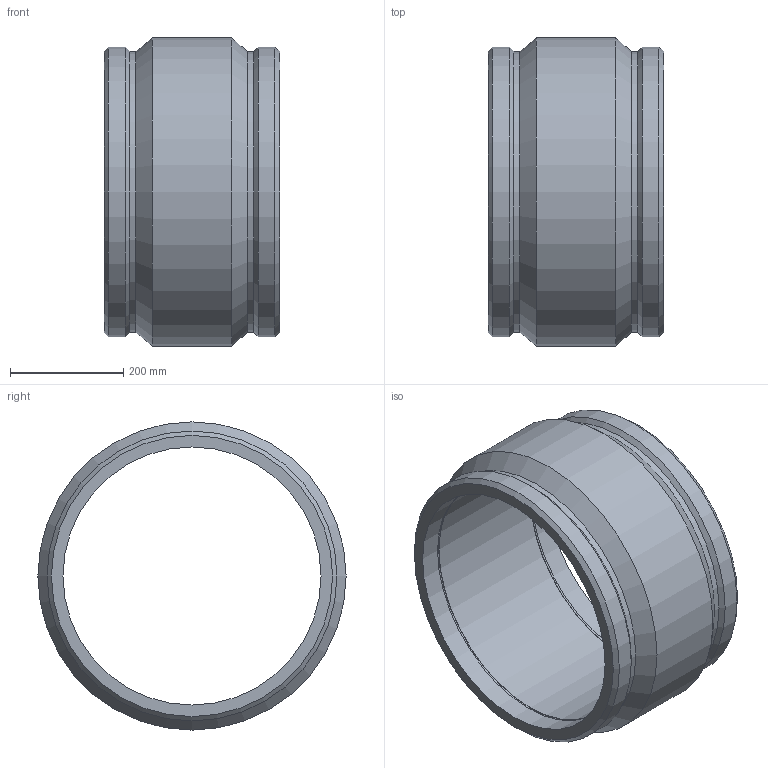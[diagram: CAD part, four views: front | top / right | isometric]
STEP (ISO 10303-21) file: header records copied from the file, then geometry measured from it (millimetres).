
FILE_DESCRIPTION(/* description */ ('PLASSON IPS COUPLER 18'''''),/* implementation_level */ '2;1');
FILE_NAME(/* name */ 'C:\Dropbox\KIMPROJECTS-Inventor 2019\99-16-3568-Processing Inch\ASTM ElectroFusion 2021\5901B\5901B003180.ipt.stp',/* time_stamp */ '2021-08-30T09:48:43+03:00',/* author */ ('KIM'),/* organization */ (''),/* preprocessor_version */ 'ST-DEVELOPER v17.2',/* originating_system */ 'Autodesk Inventor 2019',/* authorisation */ '');
FILE_SCHEMA (('AUTOMOTIVE_DESIGN { 1 0 10303 214 3 1 1 }'));
Length unit declared in the file: inch
Products named in the file (1): 5901B003180
Bounding box: 309.88 x 543.56 x 543.56 mm (x, y, z)
Volume: 16833078.9 mm3; surface area: 1065491.9 mm2
Topology: 1 solids, 1 shells, 20 faces, 56 edges, 40 vertices
Faces by surface type: cone 8, cylinder 8, plane 4
Full cylindrical faces by diameter (mm): 455.1 x3, 495.618 x2, 510.946 x2, 543.56 x1
Entity records: 731 total; most frequent: DIRECTION 138, CARTESIAN_POINT 117, ORIENTED_EDGE 112, AXIS2_PLACEMENT_3D 61, EDGE_CURVE 56, CIRCLE 40, VERTEX_POINT 40, EDGE_LOOP 24
